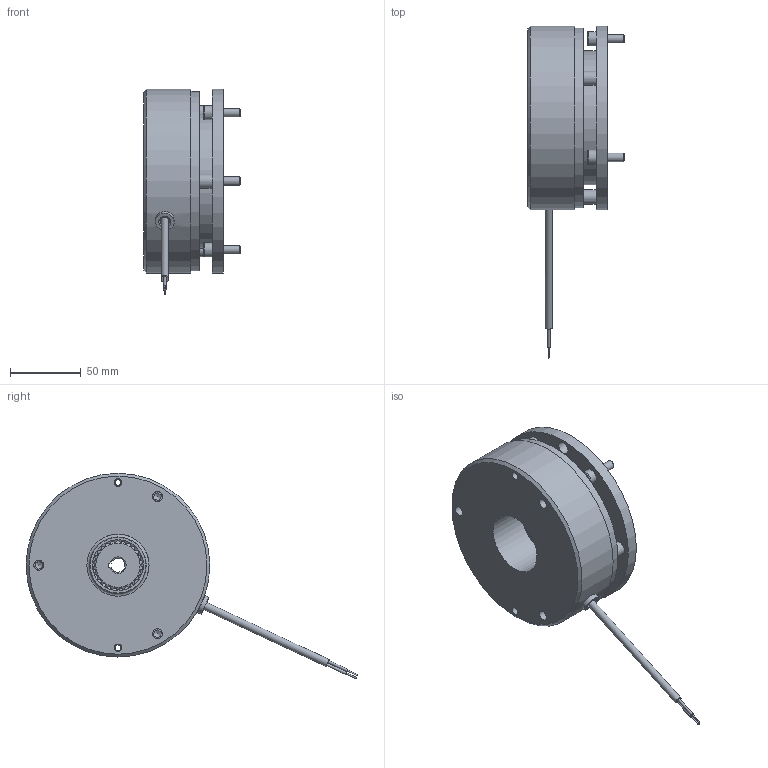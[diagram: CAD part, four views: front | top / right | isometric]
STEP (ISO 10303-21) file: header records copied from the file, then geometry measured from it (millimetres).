
FILE_DESCRIPTION(/* description */ (''),/* implementation_level */ '2;1');
FILE_NAME(/* name */ 'C:\SapWorkDir\Inventor\IP1\ConvertTempPath\5028671_IPT_000.ipt.stp',/* time_stamp */ '2020-09-16T15:23:49+02:00',/* author */ ('STRATE'),/* organization */ (''),/* preprocessor_version */ 'ST-DEVELOPER v17',/* originating_system */ 'Autodesk Inventor 2018',/* authorisation */ '');
FILE_SCHEMA (('AUTOMOTIVE_DESIGN { 1 0 10303 214 3 1 1 }'));
Length unit declared in the file: millimetre
Products named in the file (1): 5028671
Bounding box: 68.5 x 234.79 x 145.31 mm (x, y, z)
Volume: 613367.7 mm3; surface area: 117410.3 mm2
Topology: 2 solids, 2 shells, 466 faces, 1327 edges, 899 vertices
Faces by surface type: cylinder 272, plane 108, cone 65, torus 21
Full cylindrical faces by diameter (mm): 1 x2, 1.85 x2, 4.134 x2, 5.3 x1, 5.387 x3, 5.4 x2, 6 x6, 6.4 x3, 6.6 x7, 7 x3, 7.3 x2, 9.2 x2, 10 x6, 10.8 x6, 11.3 x3, 13.2 x1, 44 x3, 65.7 x2, 66.1 x2, 95 x1, 127 x1, 130 x2
Entity records: 17240 total; most frequent: CARTESIAN_POINT 4580, ORIENTED_EDGE 2646, DIRECTION 2457, EDGE_CURVE 1323, AXIS2_PLACEMENT_3D 1014, VERTEX_POINT 899, EDGE_LOOP 550, CIRCLE 523
